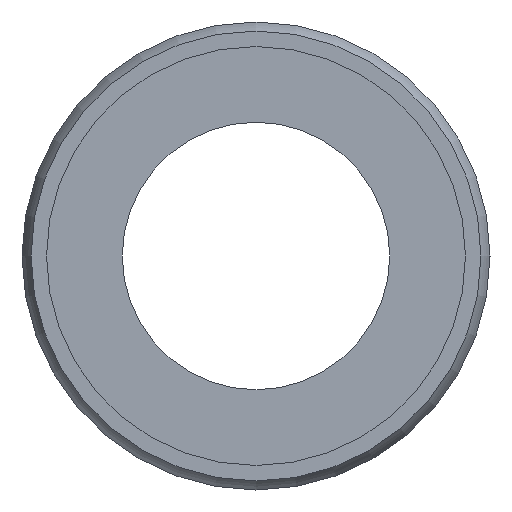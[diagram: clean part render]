
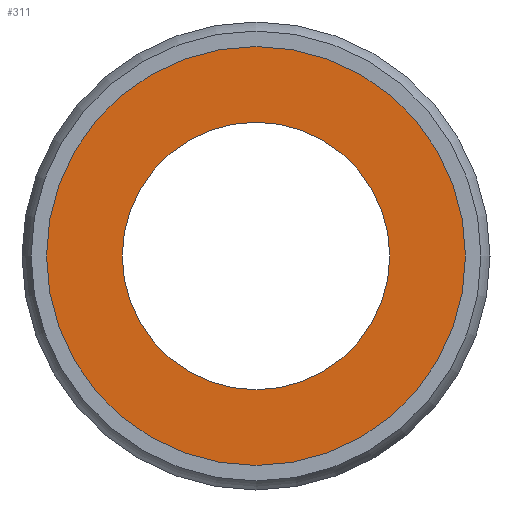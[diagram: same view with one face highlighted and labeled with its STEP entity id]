
A CAD part, left-side view. The second image highlights one B-rep face of the part: STEP entity #311.
In plain terms, the highlighted planar face has unit normal (-1, 0, 0).
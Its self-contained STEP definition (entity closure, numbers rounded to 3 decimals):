
#277=CARTESIAN_POINT('',(0.1,0.0,9.4));
#278=VERTEX_POINT('',#277);
#279=CARTESIAN_POINT('',(0.1,0.0,0.));
#280=DIRECTION('',(-1.0,0.0,0.0));
#281=DIRECTION('',(0.0,0.0,1.0));
#282=AXIS2_PLACEMENT_3D('',#279,#280,#281);
#283=CIRCLE('',#282,9.4);
#284=EDGE_CURVE('',#278,#278,#283,.T.);
#292=CARTESIAN_POINT('',(0.1,0.0,7.7));
#293=DIRECTION('',(-1.0,0.0,0.0));
#294=DIRECTION('',(0.0,0.0,1.0));
#295=AXIS2_PLACEMENT_3D('',#292,#293,#294);
#296=PLANE('',#295);
#297=ORIENTED_EDGE('',*,*,#284,.T.);
#298=EDGE_LOOP('',(#297));
#299=FACE_OUTER_BOUND('',#298,.T.);
#300=CARTESIAN_POINT('',(0.1,0.0,6.));
#301=VERTEX_POINT('',#300);
#302=CARTESIAN_POINT('',(0.1,0.0,0.));
#303=DIRECTION('',(-1.0,0.0,0.0));
#304=DIRECTION('',(0.0,0.0,1.0));
#305=AXIS2_PLACEMENT_3D('',#302,#303,#304);
#306=CIRCLE('',#305,6.);
#307=EDGE_CURVE('',#301,#301,#306,.T.);
#308=ORIENTED_EDGE('',*,*,#307,.F.);
#309=EDGE_LOOP('',(#308));
#310=FACE_BOUND('',#309,.T.);
#311=ADVANCED_FACE('',(#299,#310),#296,.T.);
